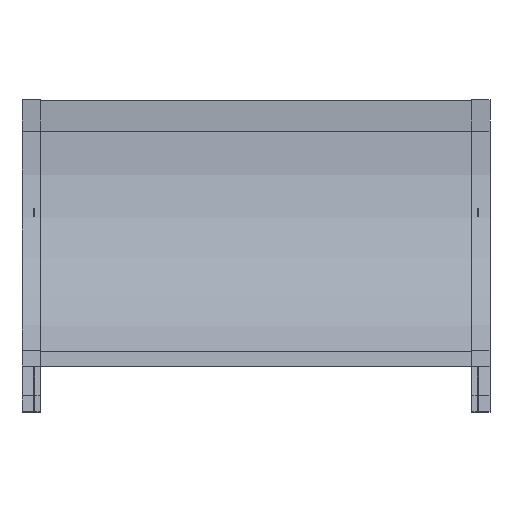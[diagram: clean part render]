
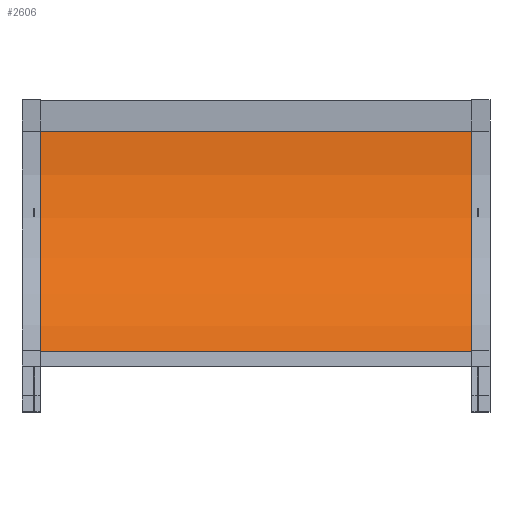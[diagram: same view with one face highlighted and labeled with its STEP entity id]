
A CAD part, front view. The second image highlights one B-rep face of the part: STEP entity #2606.
In plain terms, the highlighted cylindrical face has radius 612.14 mm (diameter 1224.28 mm), a partial arc.
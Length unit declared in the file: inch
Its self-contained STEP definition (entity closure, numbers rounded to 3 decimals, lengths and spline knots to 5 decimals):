
#2440=DIRECTION('',(-1.,0.,0.));
#2441=VECTOR('',#2440,41.875);
#2442=CARTESIAN_POINT('',(20.9375,0.,0.));
#2443=LINE('',#2442,#2441);
#2444=CARTESIAN_POINT('',(20.9375,24.1,0.));
#2445=DIRECTION('',(-1.,0.,0.));
#2446=DIRECTION('',(0.,-1.,0.));
#2447=AXIS2_PLACEMENT_3D('',#2444,#2445,#2446);
#2470=CARTESIAN_POINT('',(-20.9375,24.1,0.));
#2471=DIRECTION('',(-1.,0.,0.));
#2472=DIRECTION('',(0.,-1.,0.));
#2473=AXIS2_PLACEMENT_3D('',#2470,#2471,#2472);
#2496=DIRECTION('',(-1.,0.,0.));
#2497=VECTOR('',#2496,41.875);
#2498=CARTESIAN_POINT('',(20.9375,12.05,20.87121));
#2499=LINE('',#2498,#2497);
#2544=CARTESIAN_POINT('',(20.9375,0.,0.));
#2546=VERTEX_POINT('',#2544);
#2550=CARTESIAN_POINT('',(-20.9375,0.,0.));
#2551=VERTEX_POINT('',#2550);
#2560=CARTESIAN_POINT('',(20.9375,12.05,20.87121));
#2561=VERTEX_POINT('',#2560);
#2564=CARTESIAN_POINT('',(-20.9375,12.05,20.87121));
#2565=VERTEX_POINT('',#2564);
#2592=CARTESIAN_POINT('',(20.9375,24.1,0.));
#2593=DIRECTION('',(-1.,0.,0.));
#2594=DIRECTION('',(0.,0.,1.));
#2595=AXIS2_PLACEMENT_3D('',#2592,#2593,#2594);
#2596=CYLINDRICAL_SURFACE('',#2595,24.1);
#2598=ORIENTED_EDGE('',*,*,#2597,.T.);
#2600=ORIENTED_EDGE('',*,*,#2599,.T.);
#2602=ORIENTED_EDGE('',*,*,#2601,.F.);
#2603=ORIENTED_EDGE('',*,*,#2581,.F.);
#2604=EDGE_LOOP('',(#2598,#2600,#2602,#2603));
#2605=FACE_OUTER_BOUND('',#2604,.F.);
#2606=ADVANCED_FACE('',(#2605),#2596,.F.);
#2448=CIRCLE('',#2447,24.1);
#2474=CIRCLE('',#2473,24.1);
#2581=EDGE_CURVE('',#2546,#2551,#2443,.T.);
#2597=EDGE_CURVE('',#2546,#2561,#2448,.T.);
#2599=EDGE_CURVE('',#2561,#2565,#2499,.T.);
#2601=EDGE_CURVE('',#2551,#2565,#2474,.T.);
